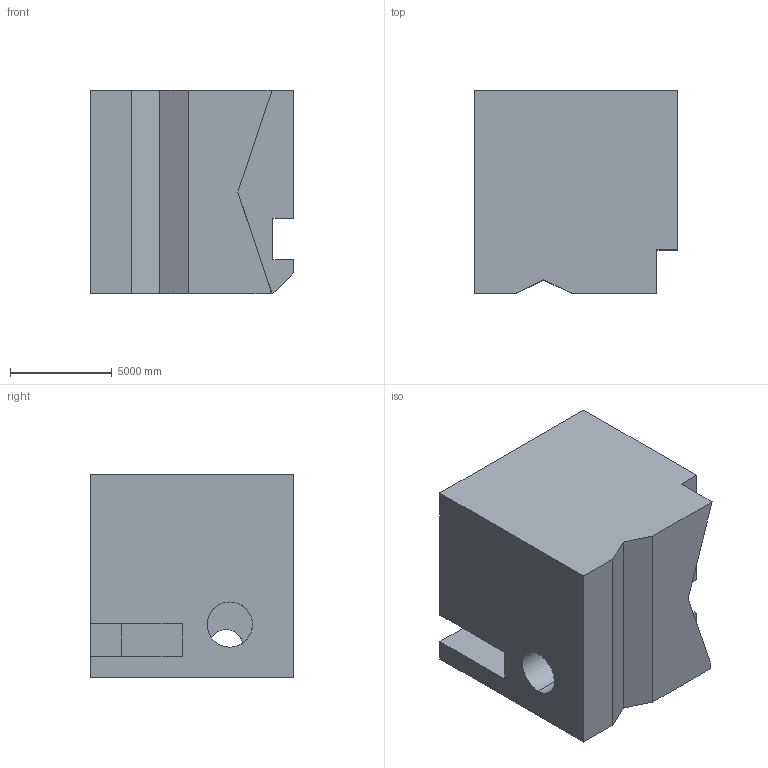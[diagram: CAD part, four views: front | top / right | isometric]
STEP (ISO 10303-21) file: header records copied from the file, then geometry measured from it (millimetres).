
FILE_DESCRIPTION (( 'STEP AP203' ), '1' );
FILE_NAME ('925.STEP', '2022-07-29T14:22:11', ( 'user' ), ( '' ), 'SwSTEP 2.0', 'SolidWorks 2021', '' );
FILE_SCHEMA (( 'CONFIG_CONTROL_DESIGN' ));
Length unit declared in the file: centimetre
Products named in the file (1): 925
Bounding box: 10000 x 10000 x 10000 mm (x, y, z)
Volume: 854518660267.6 mm3; surface area: 689185656.6 mm2
Topology: 1 solids, 1 shells, 44 faces, 129 edges, 86 vertices
Faces by surface type: plane 41, cylinder 3
Entity records: 1526 total; most frequent: CARTESIAN_POINT 260, ORIENTED_EDGE 258, DIRECTION 231, EDGE_CURVE 129, LINE 117, VECTOR 117, VERTEX_POINT 86, AXIS2_PLACEMENT_3D 57
